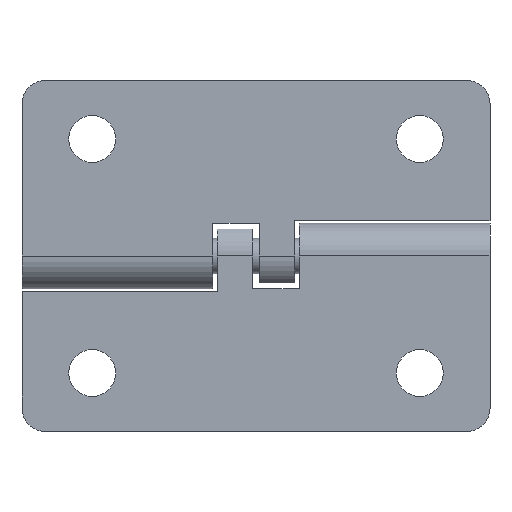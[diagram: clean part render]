
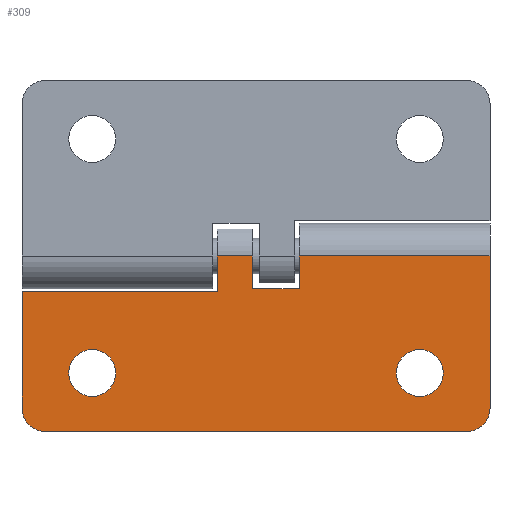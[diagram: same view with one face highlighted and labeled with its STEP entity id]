
A CAD part, left-side view. The second image highlights one B-rep face of the part: STEP entity #309.
In plain terms, the highlighted planar face has unit normal (-1, 0, 0) as drawn and (0, 0, -1) by its records, which use the part's own axes.
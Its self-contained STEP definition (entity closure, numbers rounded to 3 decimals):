
#1 = EDGE_CURVE ( 'NONE', #413, #19, #429, .T. ) ;
#9 = ORIENTED_EDGE ( 'NONE', *, *, #806, .T. ) ;
#18 = ORIENTED_EDGE ( 'NONE', *, *, #1, .F. ) ;
#19 = VERTEX_POINT ( 'NONE', #596 ) ;
#139 = VERTEX_POINT ( 'NONE', #707 ) ;
#153 = EDGE_CURVE ( 'NONE', #139, #225, #844, .T. ) ;
#156 = EDGE_LOOP ( 'NONE', ( #9, #369, #275, #189, #1081, #382, #295, #207, #1317, #404, #300, #215 ) ) ;
#157 = VERTEX_POINT ( 'NONE', #862 ) ;
#162 = EDGE_LOOP ( 'NONE', ( #18, #560 ) ) ;
#179 = ORIENTED_EDGE ( 'NONE', *, *, #392, .F. ) ;
#182 = EDGE_CURVE ( 'NONE', #157, #252, #947, .T. ) ;
#186 = EDGE_CURVE ( 'NONE', #255, #597, #1006, .T. ) ;
#189 = ORIENTED_EDGE ( 'NONE', *, *, #153, .F. ) ;
#207 = ORIENTED_EDGE ( 'NONE', *, *, #182, .F. ) ;
#215 = ORIENTED_EDGE ( 'NONE', *, *, #186, .T. ) ;
#219 = EDGE_CURVE ( 'NONE', #373, #977, #591, .T. ) ;
#225 = VERTEX_POINT ( 'NONE', #669 ) ;
#244 = EDGE_CURVE ( 'NONE', #314, #225, #809, .T. ) ;
#247 = ORIENTED_EDGE ( 'NONE', *, *, #219, .F. ) ;
#252 = VERTEX_POINT ( 'NONE', #843 ) ;
#255 = VERTEX_POINT ( 'NONE', #867 ) ;
#268 = EDGE_CURVE ( 'NONE', #252, #336, #930, .T. ) ;
#271 = EDGE_CURVE ( 'NONE', #255, #352, #951, .T. ) ;
#275 = ORIENTED_EDGE ( 'NONE', *, *, #244, .T. ) ;
#288 = EDGE_LOOP ( 'NONE', ( #247, #179 ) ) ;
#295 = ORIENTED_EDGE ( 'NONE', *, *, #268, .F. ) ;
#300 = ORIENTED_EDGE ( 'NONE', *, *, #271, .F. ) ;
#309 = ADVANCED_FACE ( 'NONE', ( #569, #570, #571 ), #572, .F. ) ;
#314 = VERTEX_POINT ( 'NONE', #627 ) ;
#336 = VERTEX_POINT ( 'NONE', #802 ) ;
#343 = EDGE_CURVE ( 'NONE', #336, #525, #863, .T. ) ;
#352 = VERTEX_POINT ( 'NONE', #924 ) ;
#355 = EDGE_CURVE ( 'NONE', #419, #314, #925, .T. ) ;
#369 = ORIENTED_EDGE ( 'NONE', *, *, #355, .T. ) ;
#372 = EDGE_CURVE ( 'NONE', #352, #771, #1052, .T. ) ;
#373 = VERTEX_POINT ( 'NONE', #1056 ) ;
#382 = ORIENTED_EDGE ( 'NONE', *, *, #343, .F. ) ;
#392 = EDGE_CURVE ( 'NONE', #977, #373, #1106, .T. ) ;
#404 = ORIENTED_EDGE ( 'NONE', *, *, #372, .F. ) ;
#413 = VERTEX_POINT ( 'NONE', #649 ) ;
#419 = VERTEX_POINT ( 'NONE', #668 ) ;
#429 = CIRCLE ( 'NONE', #430, 2. ) ;
#430 = AXIS2_PLACEMENT_3D ( 'NONE', #431, #432, #433 ) ;
#431 = CARTESIAN_POINT ( 'NONE',  ( 10., -14., -2.8 ) ) ;
#432 = DIRECTION ( 'NONE',  ( 0., 0., -1. ) ) ;
#433 = DIRECTION ( 'NONE',  ( -1., 0., 0. ) ) ;
#525 = VERTEX_POINT ( 'NONE', #766 ) ;
#560 = ORIENTED_EDGE ( 'NONE', *, *, #561, .F. ) ;
#561 = EDGE_CURVE ( 'NONE', #19, #413, #790, .T. ) ;
#569 = FACE_BOUND ( 'NONE', #288, .T. ) ;
#570 = FACE_OUTER_BOUND ( 'NONE', #156, .T. ) ;
#571 = FACE_BOUND ( 'NONE', #162, .T. ) ;
#572 = PLANE ( 'NONE',  #573 ) ;
#573 = AXIS2_PLACEMENT_3D ( 'NONE', #574, #575, #576 ) ;
#574 = CARTESIAN_POINT ( 'NONE',  ( 0., 20., -2.8 ) ) ;
#575 = DIRECTION ( 'NONE',  ( 0., 0., 1. ) ) ;
#576 = DIRECTION ( 'NONE',  ( 1., 0., 0. ) ) ;
#591 = CIRCLE ( 'NONE', #592, 2. ) ;
#592 = AXIS2_PLACEMENT_3D ( 'NONE', #593, #594, #595 ) ;
#593 = CARTESIAN_POINT ( 'NONE',  ( 10., 14., -2.8 ) ) ;
#594 = DIRECTION ( 'NONE',  ( 0., 0., -1. ) ) ;
#595 = DIRECTION ( 'NONE',  ( -1., 0., 0. ) ) ;
#596 = CARTESIAN_POINT ( 'NONE',  ( 12., -14., -2.8 ) ) ;
#597 = VERTEX_POINT ( 'NONE', #808 ) ;
#627 = CARTESIAN_POINT ( 'NONE',  ( 13., -20., -2.8 ) ) ;
#649 = CARTESIAN_POINT ( 'NONE',  ( 8., -14., -2.8 ) ) ;
#668 = CARTESIAN_POINT ( 'NONE',  ( 15., -18., -2.8 ) ) ;
#669 = CARTESIAN_POINT ( 'NONE',  ( 0., -20., -2.8 ) ) ;
#707 = CARTESIAN_POINT ( 'NONE',  ( 0., -3.7, -2.8 ) ) ;
#735 = EDGE_CURVE ( 'NONE', #525, #139, #877, .T. ) ;
#766 = CARTESIAN_POINT ( 'NONE',  ( 2.8, -3.7, -2.8 ) ) ;
#771 = VERTEX_POINT ( 'NONE', #900 ) ;
#790 = CIRCLE ( 'NONE', #791, 2. ) ;
#791 = AXIS2_PLACEMENT_3D ( 'NONE', #792, #793, #794 ) ;
#792 = CARTESIAN_POINT ( 'NONE',  ( 10., -14., -2.8 ) ) ;
#793 = DIRECTION ( 'NONE',  ( 0., 0., -1. ) ) ;
#794 = DIRECTION ( 'NONE',  ( -1., 0., 0. ) ) ;
#802 = CARTESIAN_POINT ( 'NONE',  ( 2.8, 0.3, -2.8 ) ) ;
#806 = EDGE_CURVE ( 'NONE', #597, #419, #912, .T. ) ;
#808 = CARTESIAN_POINT ( 'NONE',  ( 15., 18., -2.8 ) ) ;
#809 = LINE ( 'NONE', #810, #811 ) ;
#810 = CARTESIAN_POINT ( 'NONE',  ( 0., -20., -2.8 ) ) ;
#811 = VECTOR ( 'NONE', #812, 1000. ) ;
#812 = DIRECTION ( 'NONE',  ( -1., 0., 0. ) ) ;
#843 = CARTESIAN_POINT ( 'NONE',  ( 0., 0.3, -2.8 ) ) ;
#844 = LINE ( 'NONE', #845, #846 ) ;
#845 = CARTESIAN_POINT ( 'NONE',  ( 0., 20., -2.8 ) ) ;
#846 = VECTOR ( 'NONE', #847, 1000. ) ;
#847 = DIRECTION ( 'NONE',  ( 0., -1., 0. ) ) ;
#862 = CARTESIAN_POINT ( 'NONE',  ( 0., 3.3, -2.8 ) ) ;
#863 = LINE ( 'NONE', #864, #865 ) ;
#864 = CARTESIAN_POINT ( 'NONE',  ( 2.8, -3.7, -2.8 ) ) ;
#865 = VECTOR ( 'NONE', #866, 1000. ) ;
#866 = DIRECTION ( 'NONE',  ( 0., -1., 0. ) ) ;
#867 = CARTESIAN_POINT ( 'NONE',  ( 13., 20., -2.8 ) ) ;
#877 = LINE ( 'NONE', #878, #879 ) ;
#878 = CARTESIAN_POINT ( 'NONE',  ( -4.2, -3.7, -2.8 ) ) ;
#879 = VECTOR ( 'NONE', #880, 1000. ) ;
#880 = DIRECTION ( 'NONE',  ( -1., 0., 0. ) ) ;
#900 = CARTESIAN_POINT ( 'NONE',  ( 3., 3.3, -2.8 ) ) ;
#912 = LINE ( 'NONE', #913, #914 ) ;
#913 = CARTESIAN_POINT ( 'NONE',  ( 15., 20., -2.8 ) ) ;
#914 = VECTOR ( 'NONE', #915, 1000. ) ;
#915 = DIRECTION ( 'NONE',  ( 0., -1., 0. ) ) ;
#924 = CARTESIAN_POINT ( 'NONE',  ( 3., 20., -2.8 ) ) ;
#925 = CIRCLE ( 'NONE', #926, 2. ) ;
#926 = AXIS2_PLACEMENT_3D ( 'NONE', #927, #928, #929 ) ;
#927 = CARTESIAN_POINT ( 'NONE',  ( 13., -18., -2.8 ) ) ;
#928 = DIRECTION ( 'NONE',  ( 0., 0., -1. ) ) ;
#929 = DIRECTION ( 'NONE',  ( 1., 0., 0. ) ) ;
#930 = LINE ( 'NONE', #931, #932 ) ;
#931 = CARTESIAN_POINT ( 'NONE',  ( 2.8, 0.3, -2.8 ) ) ;
#932 = VECTOR ( 'NONE', #933, 1000. ) ;
#933 = DIRECTION ( 'NONE',  ( 1., 0., 0. ) ) ;
#947 = LINE ( 'NONE', #948, #949 ) ;
#948 = CARTESIAN_POINT ( 'NONE',  ( 0., 20., -2.8 ) ) ;
#949 = VECTOR ( 'NONE', #950, 1000. ) ;
#950 = DIRECTION ( 'NONE',  ( 0., -1., 0. ) ) ;
#951 = LINE ( 'NONE', #952, #953 ) ;
#952 = CARTESIAN_POINT ( 'NONE',  ( 0., 20., -2.8 ) ) ;
#953 = VECTOR ( 'NONE', #954, 1000. ) ;
#954 = DIRECTION ( 'NONE',  ( -1., 0., 0. ) ) ;
#976 = EDGE_CURVE ( 'NONE', #771, #157, #984, .T. ) ;
#977 = VERTEX_POINT ( 'NONE', #988 ) ;
#984 = LINE ( 'NONE', #985, #986 ) ;
#985 = CARTESIAN_POINT ( 'NONE',  ( 0., 3.3, -2.8 ) ) ;
#986 = VECTOR ( 'NONE', #987, 1000. ) ;
#987 = DIRECTION ( 'NONE',  ( -1., 0., 0. ) ) ;
#988 = CARTESIAN_POINT ( 'NONE',  ( 12., 14., -2.8 ) ) ;
#1006 = CIRCLE ( 'NONE', #1007, 2. ) ;
#1007 = AXIS2_PLACEMENT_3D ( 'NONE', #1008, #1009, #1010 ) ;
#1008 = CARTESIAN_POINT ( 'NONE',  ( 13., 18., -2.8 ) ) ;
#1009 = DIRECTION ( 'NONE',  ( 0., 0., -1. ) ) ;
#1010 = DIRECTION ( 'NONE',  ( 1., 0., 0. ) ) ;
#1052 = LINE ( 'NONE', #1053, #1054 ) ;
#1053 = CARTESIAN_POINT ( 'NONE',  ( 3., 20., -2.8 ) ) ;
#1054 = VECTOR ( 'NONE', #1055, 1000. ) ;
#1055 = DIRECTION ( 'NONE',  ( 0., -1., 0. ) ) ;
#1056 = CARTESIAN_POINT ( 'NONE',  ( 8., 14., -2.8 ) ) ;
#1081 = ORIENTED_EDGE ( 'NONE', *, *, #735, .F. ) ;
#1106 = CIRCLE ( 'NONE', #1107, 2. ) ;
#1107 = AXIS2_PLACEMENT_3D ( 'NONE', #1108, #1109, #1110 ) ;
#1108 = CARTESIAN_POINT ( 'NONE',  ( 10., 14., -2.8 ) ) ;
#1109 = DIRECTION ( 'NONE',  ( 0., 0., -1. ) ) ;
#1110 = DIRECTION ( 'NONE',  ( -1., 0., 0. ) ) ;
#1317 = ORIENTED_EDGE ( 'NONE', *, *, #976, .F. ) ;
